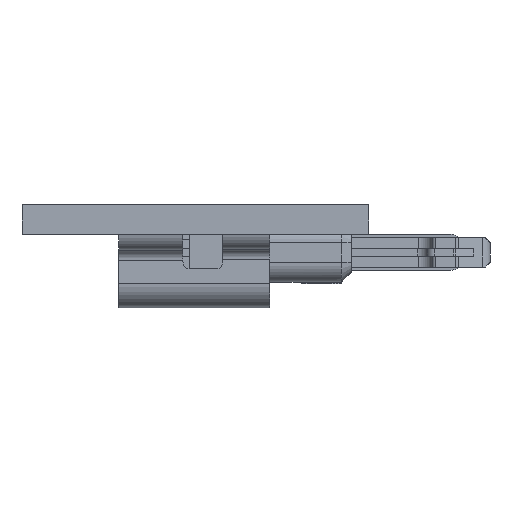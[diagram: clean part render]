
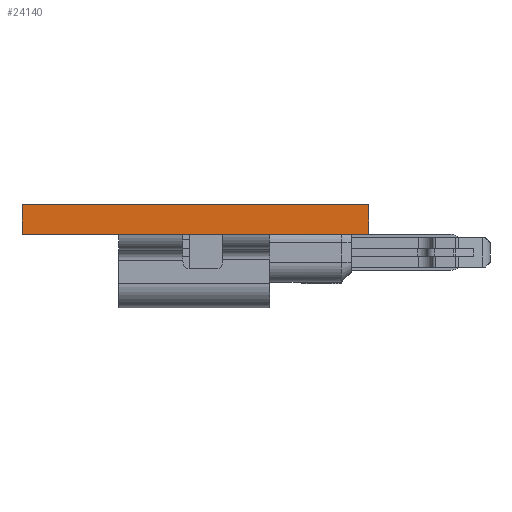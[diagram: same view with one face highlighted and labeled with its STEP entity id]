
A CAD part, front view. The second image highlights one B-rep face of the part: STEP entity #24140.
In plain terms, the highlighted planar face has unit normal (0, -1, 0).
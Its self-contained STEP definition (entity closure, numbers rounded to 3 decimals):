
#56 = EDGE_CURVE ( 'NONE', #3471, #7623, #3431, .T. ) ;
#890 = CARTESIAN_POINT ( 'NONE',  ( -6.545, -7.025, 1.048 ) ) ;
#1087 = CARTESIAN_POINT ( 'NONE',  ( 0.455, -7.025, 0.448 ) ) ;
#1144 = ORIENTED_EDGE ( 'NONE', *, *, #13857, .F. ) ;
#1403 = CARTESIAN_POINT ( 'NONE',  ( -6.545, -7.025, 0.448 ) ) ;
#3328 = DIRECTION ( 'NONE',  ( 0., 1., 0. ) ) ;
#3431 = LINE ( 'NONE', #27765, #11627 ) ;
#3471 = VERTEX_POINT ( 'NONE', #1087 ) ;
#3957 = CARTESIAN_POINT ( 'NONE',  ( -6.545, -7.025, 1.048 ) ) ;
#6356 = CARTESIAN_POINT ( 'NONE',  ( 0.455, -7.025, 1.048 ) ) ;
#6477 = VECTOR ( 'NONE', #14737, 1000. ) ;
#7623 = VERTEX_POINT ( 'NONE', #1403 ) ;
#8227 = EDGE_LOOP ( 'NONE', ( #26204, #1144, #14938, #16691 ) ) ;
#11151 = EDGE_CURVE ( 'NONE', #18727, #25807, #33162, .T. ) ;
#11627 = VECTOR ( 'NONE', #24616, 1000. ) ;
#13857 = EDGE_CURVE ( 'NONE', #18727, #3471, #19658, .T. ) ;
#14737 = DIRECTION ( 'NONE',  ( 0., 0., -1. ) ) ;
#14938 = ORIENTED_EDGE ( 'NONE', *, *, #11151, .T. ) ;
#15553 = VECTOR ( 'NONE', #22243, 1000. ) ;
#16095 = DIRECTION ( 'NONE',  ( 1., 0., 0. ) ) ;
#16691 = ORIENTED_EDGE ( 'NONE', *, *, #28708, .T. ) ;
#18727 = VERTEX_POINT ( 'NONE', #20017 ) ;
#19075 = CARTESIAN_POINT ( 'NONE',  ( -6.545, -7.025, 0.448 ) ) ;
#19658 = LINE ( 'NONE', #28239, #6477 ) ;
#20014 = DIRECTION ( 'NONE',  ( -1., 0., 0. ) ) ;
#20017 = CARTESIAN_POINT ( 'NONE',  ( 0.455, -7.025, 1.048 ) ) ;
#20363 = AXIS2_PLACEMENT_3D ( 'NONE', #19075, #3328, #16095 ) ;
#22243 = DIRECTION ( 'NONE',  ( 0., 0., -1. ) ) ;
#24140 = ADVANCED_FACE ( 'NONE', ( #32408 ), #26964, .F. ) ;
#24616 = DIRECTION ( 'NONE',  ( -1., 0., 0. ) ) ;
#24863 = LINE ( 'NONE', #890, #15553 ) ;
#25807 = VERTEX_POINT ( 'NONE', #3957 ) ;
#26204 = ORIENTED_EDGE ( 'NONE', *, *, #56, .F. ) ;
#26964 = PLANE ( 'NONE',  #20363 ) ;
#27765 = CARTESIAN_POINT ( 'NONE',  ( 0.455, -7.025, 0.448 ) ) ;
#28239 = CARTESIAN_POINT ( 'NONE',  ( 0.455, -7.025, 1.048 ) ) ;
#28708 = EDGE_CURVE ( 'NONE', #25807, #7623, #24863, .T. ) ;
#31693 = VECTOR ( 'NONE', #20014, 1000. ) ;
#32408 = FACE_OUTER_BOUND ( 'NONE', #8227, .T. ) ;
#33162 = LINE ( 'NONE', #6356, #31693 ) ;
